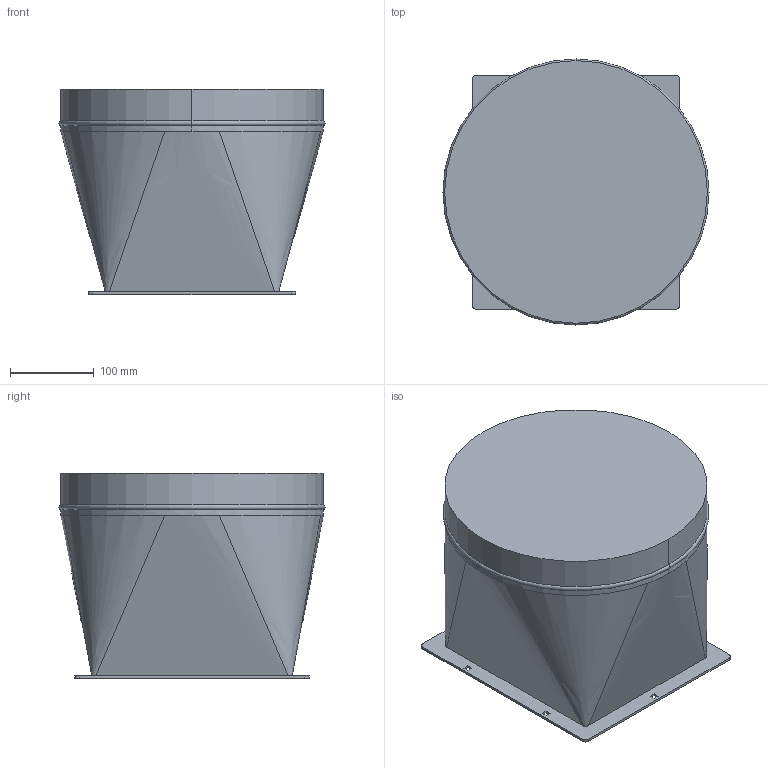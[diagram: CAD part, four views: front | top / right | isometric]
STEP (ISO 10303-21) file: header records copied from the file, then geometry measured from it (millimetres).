
FILE_DESCRIPTION((''),'2;1');
FILE_NAME('FBO_150','2023-01-24T15:25:08',('Tomas Bellgran'),(''),'CREO PARAMETRIC BY PTC INC, 2018260','CREO PARAMETRIC BY PTC INC, 2018260','');
FILE_SCHEMA(('AUTOMOTIVE_DESIGN { 1 0 10303 214 1 1 1 1 }'));
Length unit declared in the file: millimetre
Products named in the file (1): FBO_150
Bounding box: 317 x 317 x 244.3 mm (x, y, z)
Volume: 16519124.8 mm3; surface area: 400614.9 mm2
Topology: 1 solids, 1 shells, 49 faces, 134 edges, 88 vertices
Faces by surface type: plane 31, bspline 8, cylinder 8, torus 2
Entity records: 2496 total; most frequent: CARTESIAN_POINT 1058, ORIENTED_EDGE 268, DIRECTION 251, EDGE_CURVE 134, VECTOR 104, LINE 104, VERTEX_POINT 88, AXIS2_PLACEMENT_3D 72
